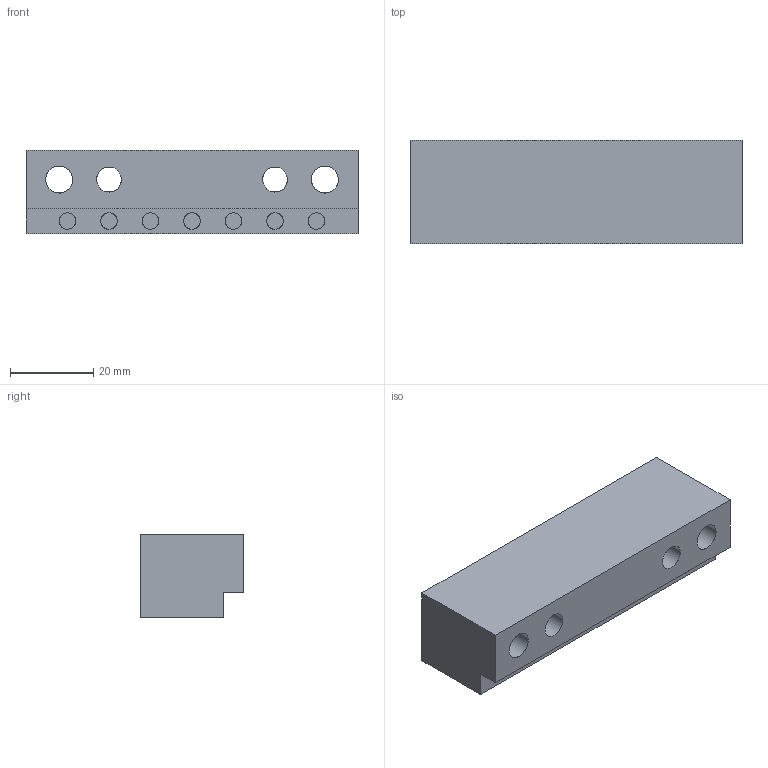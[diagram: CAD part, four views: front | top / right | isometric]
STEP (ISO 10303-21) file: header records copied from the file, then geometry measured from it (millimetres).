
FILE_DESCRIPTION(('CATIA V5 STEP Exchange'),'2;1');
FILE_NAME('C:\Users\Utente\Desktop\3D files G406\G40625080.stp','2020-04-22T11:26:16+00:00',('none'),('none'),'CATIA Version 5 Release 20 GA (IN-10)','CATIA V5 STEP AP203','none');
FILE_SCHEMA(('CONFIG_CONTROL_DESIGN'));
Length unit declared in the file: millimetre
Products named in the file (1): G40625080
Bounding box: 80 x 25 x 20 mm (x, y, z)
Surface area: 12654.7 mm2 (no closed solid volume)
Topology: 0 solids, 300 shells, 300 faces, 1270 edges, 1128 vertices
Faces by surface type: revolution 156, cylinder 104, plane 40
Entity records: 14232 total; most frequent: CARTESIAN_POINT 4823, DIRECTION 1486, ORIENTED_EDGE 1128, EDGE_CURVE 1128, VERTEX_POINT 1128, AXIS2_PLACEMENT_3D 631, VECTOR 556, LINE 556
